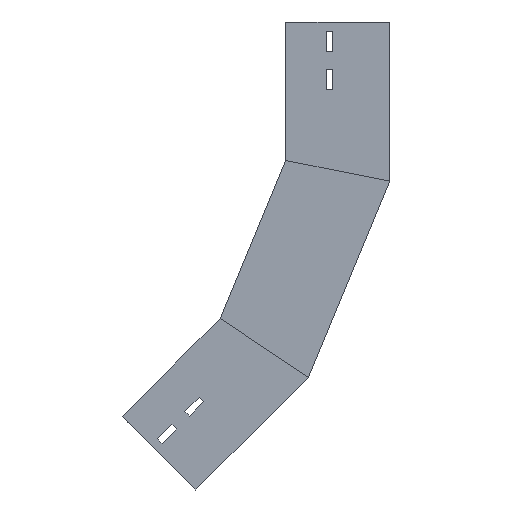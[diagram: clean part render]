
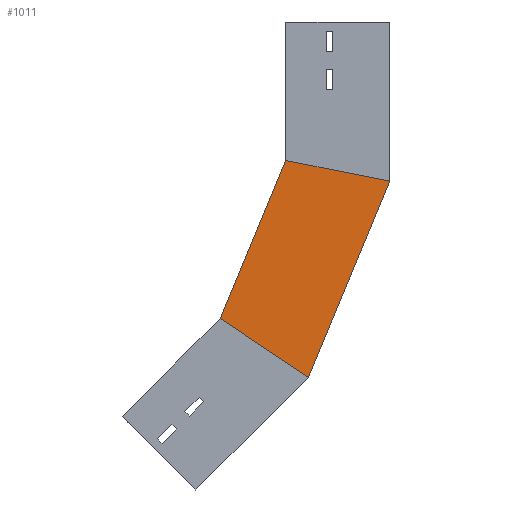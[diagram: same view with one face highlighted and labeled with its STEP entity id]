
A CAD part, left-side view. The second image highlights one B-rep face of the part: STEP entity #1011.
In plain terms, the highlighted planar face has unit normal (-1, 0, 0) as drawn and (1, 0, 0) by its records, which use the part's own axes.
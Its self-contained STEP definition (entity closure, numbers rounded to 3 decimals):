
#4 = ORIENTED_EDGE ( 'NONE', *, *, #1065, .T. ) ;
#51 = CARTESIAN_POINT ( 'NONE',  ( 0., 0., -172.1 ) ) ;
#59 = CARTESIAN_POINT ( 'NONE',  ( 0., 125.326, -359.663 ) ) ;
#91 = AXIS2_PLACEMENT_3D ( 'NONE', #51, #614, #602 ) ;
#117 = EDGE_CURVE ( 'NONE', #953, #385, #290, .T. ) ;
#147 = FACE_OUTER_BOUND ( 'NONE', #556, .T. ) ;
#279 = LINE ( 'NONE', #714, #366 ) ;
#290 = LINE ( 'NONE', #1437, #930 ) ;
#339 = ORIENTED_EDGE ( 'NONE', *, *, #1456, .T. ) ;
#366 = VECTOR ( 'NONE', #496, 1000. ) ;
#385 = VERTEX_POINT ( 'NONE', #484 ) ;
#395 = VECTOR ( 'NONE', #623, 1000. ) ;
#401 = CARTESIAN_POINT ( 'NONE',  ( 0., 112.5, -149.722 ) ) ;
#423 = LINE ( 'NONE', #641, #464 ) ;
#464 = VECTOR ( 'NONE', #1450, 1000. ) ;
#484 = CARTESIAN_POINT ( 'NONE',  ( 0., 183.39, -320.866 ) ) ;
#496 = DIRECTION ( 'NONE',  ( 0., 0.383, -0.924 ) ) ;
#556 = EDGE_LOOP ( 'NONE', ( #1371, #339, #4, #1159 ) ) ;
#602 = DIRECTION ( 'NONE',  ( 0., 0., 1. ) ) ;
#614 = DIRECTION ( 'NONE',  ( -1., 0., 0. ) ) ;
#623 = DIRECTION ( 'NONE',  ( 0., -0.831, -0.556 ) ) ;
#641 = CARTESIAN_POINT ( 'NONE',  ( 0., 32.93, -165.55 ) ) ;
#714 = CARTESIAN_POINT ( 'NONE',  ( 0., 0., -172.1 ) ) ;
#842 = LINE ( 'NONE', #59, #395 ) ;
#900 = CARTESIAN_POINT ( 'NONE',  ( 0., 88.017, -384.592 ) ) ;
#930 = VECTOR ( 'NONE', #1114, 1000. ) ;
#940 = CARTESIAN_POINT ( 'NONE',  ( 0., 0., -172.1 ) ) ;
#953 = VERTEX_POINT ( 'NONE', #401 ) ;
#1011 = ADVANCED_FACE ( 'NONE', ( #147 ), #1446, .F. ) ;
#1026 = VERTEX_POINT ( 'NONE', #940 ) ;
#1041 = EDGE_CURVE ( 'NONE', #385, #1305, #842, .T. ) ;
#1065 = EDGE_CURVE ( 'NONE', #1026, #1305, #279, .T. ) ;
#1114 = DIRECTION ( 'NONE',  ( 0., 0.383, -0.924 ) ) ;
#1159 = ORIENTED_EDGE ( 'NONE', *, *, #1041, .F. ) ;
#1305 = VERTEX_POINT ( 'NONE', #900 ) ;
#1371 = ORIENTED_EDGE ( 'NONE', *, *, #117, .F. ) ;
#1437 = CARTESIAN_POINT ( 'NONE',  ( 0., 103.936, -129.048 ) ) ;
#1446 = PLANE ( 'NONE',  #91 ) ;
#1450 = DIRECTION ( 'NONE',  ( 0., -0.981, -0.195 ) ) ;
#1456 = EDGE_CURVE ( 'NONE', #953, #1026, #423, .T. ) ;
